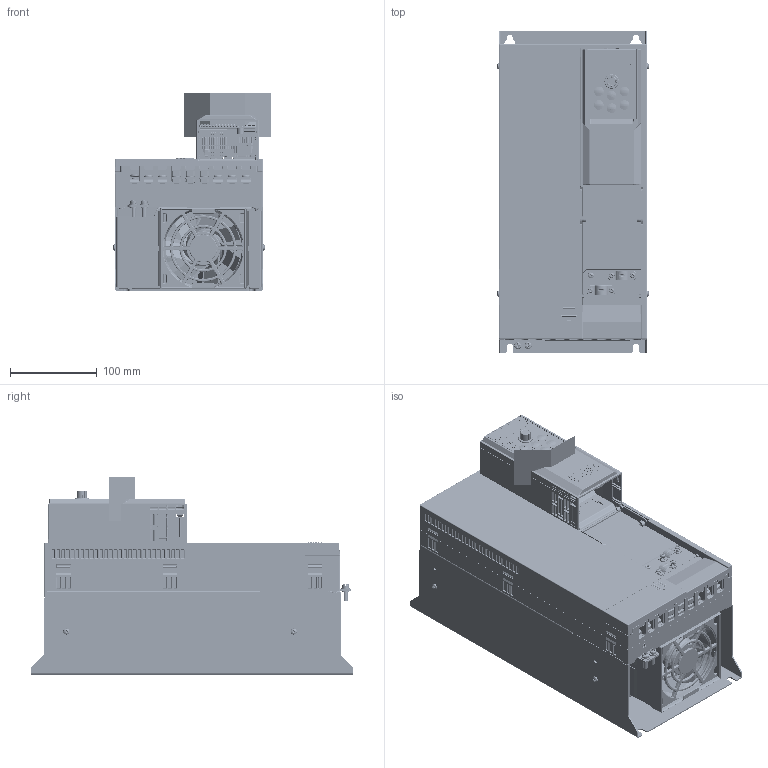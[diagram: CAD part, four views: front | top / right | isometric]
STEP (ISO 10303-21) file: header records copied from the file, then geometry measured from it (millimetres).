
FILE_DESCRIPTION((''),'2;1');
FILE_NAME('AD800-D4-DRIVE_ASM','2024-12-11T11:22:45',('Optimus Drive'),(''),'CREO PARAMETRIC BY PTC INC, 2018100','CREO PARAMETRIC BY PTC INC, 2018100','');
FILE_SCHEMA(('CONFIG_CONTROL_DESIGN','GEOMETRIC_VALIDATION_PROPERTIES_MIM'));
Products named in the file (65): D4-MECHANICAL-PART; M0100011; M0100015; M0203012; E0400030; M0202007; M0202003; M0202000; M0104022; M0104021; FAN9238; FAN-ASM-9238_ASM; E0400047; AD800-D4-PU_ASM; M0104149; E0100736; E0400142; E0400150; E0400073; E0400116; E0400023; E0100736_ASM; E0200416; M0104143; E0400117; E0100735; 0603; SOT-23; SO-14; E0300000; SOD-6; E0300008; LQFP64; 1206; SMD3215-2P; 0805; SO-8; P3_5_3_2_; SMM0207; SOT-223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
Assembly tree (388 placements, depth 5):
  AD800-D4-DRIVE_ASM
    AD800-D4-PU_ASM
      D4-MECHANICAL-PART
      M0100011
      M0100015  x2
      M0203012
      E0400030
      M0202007  x2
      M0202003  x4
      M0202000  x5
      M0104022
      FAN-ASM-9238_ASM
        M0104021
        FAN9238
      E0400047
    CU04-ASSY_ASM
      M0104149
      E0100736_ASM
        E0100736
        E0400142
        E0400150
        E0400073  x2
        E0400116
        E0400023
      E0200416
      M0104143
      E0400117
      E0100735_ASM
        E0100735
        0603  x193
        SOT-23  x51
        SO-14  x2
        E0300000
        SOD-6  x4
        E0300008  x2
        LQFP64
        E0400116
        1206  x32
        SMD3215-2P
        0805  x20
        SO-8  x2
        P3_5_3_2_
        SMM0207  x2
        SOT-223
        TO252
        SC70-6
        1210  x2
        E0400035
        E0400118
        E0400023
        E0400011
      EXTERNAL_KEYPAD_ASM
        M0104016
        M0104018
        E0100102_ASM
          E0100102
          0805-LED  x6
          E0300012
          E0200191
          E0200192
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Bounding box: 182.02 x 370 x 226.7 mm (x, y, z)
Volume: 7091556.6 mm3; surface area: 958668.2 mm2
Topology: 421 solids, 489 shells, 30999 faces, 81186 edges, 52193 vertices
Faces by surface type: plane 19878, cylinder 5843, bspline 1984, extrusion 1860, cone 749, sphere 411, torus 274
Entity records: 1073448 total; most frequent: CARTESIAN_POINT 269743, ORIENTED_EDGE 125228, DIRECTION 104910, EDGE_CURVE 62784, PRESENTATION_STYLE_ASSIGNMENT 60841, STYLED_ITEM 57612, CURVE_STYLE 52626, VECTOR 46058
